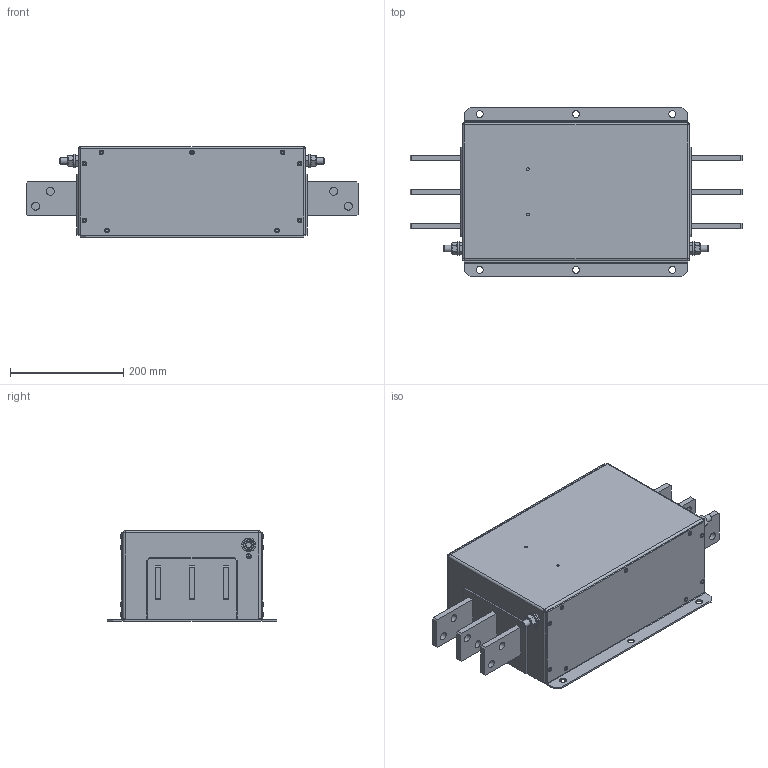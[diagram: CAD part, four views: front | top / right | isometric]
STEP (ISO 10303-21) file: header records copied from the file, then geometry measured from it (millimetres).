
FILE_DESCRIPTION(/* description */ (''),/* implementation_level */ '2;1');
FILE_NAME(/* name */ 'C:\Users\Oliver.Volic\Desktop\FN3359+HV ZIP\FN3359(HV)-1600-99\FN3359(HV)-1600-99.stp',/* time_stamp */ '2018-05-24T14:21:21+02:00',/* author */ ('Oliver.Volic'),/* organization */ (''),/* preprocessor_version */ 'ST-DEVELOPER v16.5',/* originating_system */ 'Autodesk Inventor 2017',/* authorisation */ '');
FILE_SCHEMA (('AUTOMOTIVE_DESIGN { 1 0 10303 214 3 1 1 }'));
Length unit declared in the file: millimetre
Products named in the file (1): FN3359(HV)-1600-99
Bounding box: 586 x 300 x 160 mm (x, y, z)
Volume: 2442223.9 mm3; surface area: 1217267.5 mm2
Topology: 41 solids, 41 shells, 1090 faces, 2760 edges, 1812 vertices
Faces by surface type: plane 618, cylinder 398, cone 30, bspline 26, torus 18
Full cylindrical faces by diameter (mm): 4 x18, 4.1 x18, 4.3 x14, 4.82 x2, 5.5 x4, 8 x20, 9 x2, 10.106 x4, 10.5 x4, 12 x8, 13 x6, 14 x12, 16.63 x2, 24 x4
Entity records: 34127 total; most frequent: CARTESIAN_POINT 6573, DIRECTION 5526, ORIENTED_EDGE 5204, EDGE_CURVE 2602, AXIS2_PLACEMENT_3D 1969, VERTEX_POINT 1808, LINE 1588, VECTOR 1588
